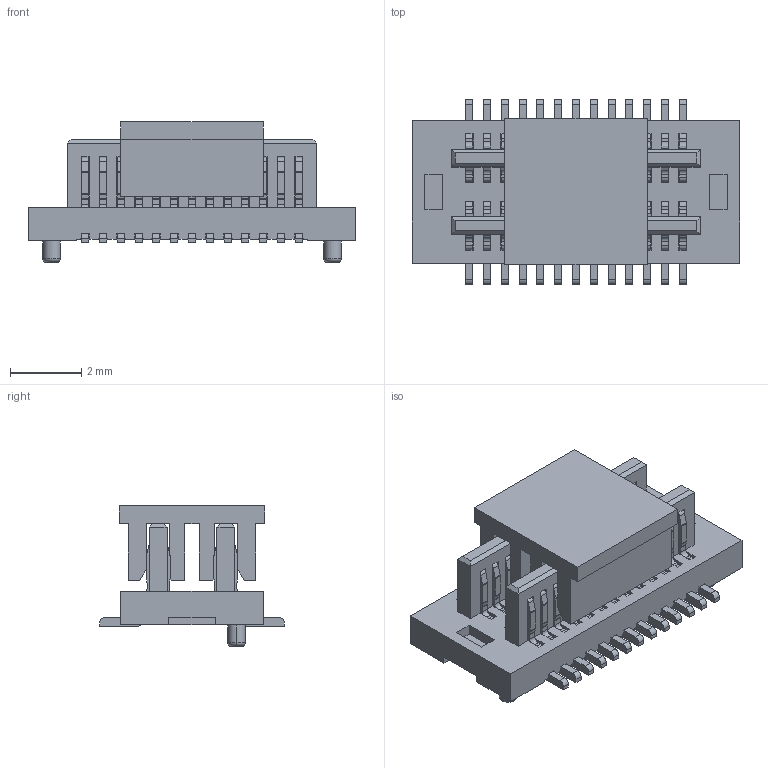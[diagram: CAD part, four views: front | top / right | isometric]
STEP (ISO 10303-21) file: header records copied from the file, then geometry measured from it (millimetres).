
FILE_DESCRIPTION(('CATIA V5 STEP Exchange'),'2;1');
FILE_NAME('F:\黄富鸿\板对板\PBB05\公座\H1.0\编带+盖\HC-PBB05-2-26-M-H1.0-G1-R-P-04（BTB0.5 双槽 公座 立贴 带柱 编带+盖）-HCTL.stp','2025-12-09T02:32:50+00:00',('none'),('none'),'CATIA Version 5 Release 20 GA (IN-10)','CATIA V5 STEP AP203','none');
FILE_SCHEMA(('CONFIG_CONTROL_DESIGN'));
Length unit declared in the file: millimetre
Products named in the file (1): Part2
Bounding box: 9.2 x 5.2 x 3.95 mm (x, y, z)
Volume: 66.7 mm3; surface area: 503.4 mm2
Topology: 28 solids, 28 shells, 1536 faces, 4670 edges, 3092 vertices
Faces by surface type: plane 1008, cylinder 524, torus 4
Entity records: 45057 total; most frequent: ORIENTED_EDGE 9340, CARTESIAN_POINT 8346, DIRECTION 5108, EDGE_CURVE 4670, VECTOR 3510, LINE 3510, VERTEX_POINT 3092, EDGE_LOOP 1542
